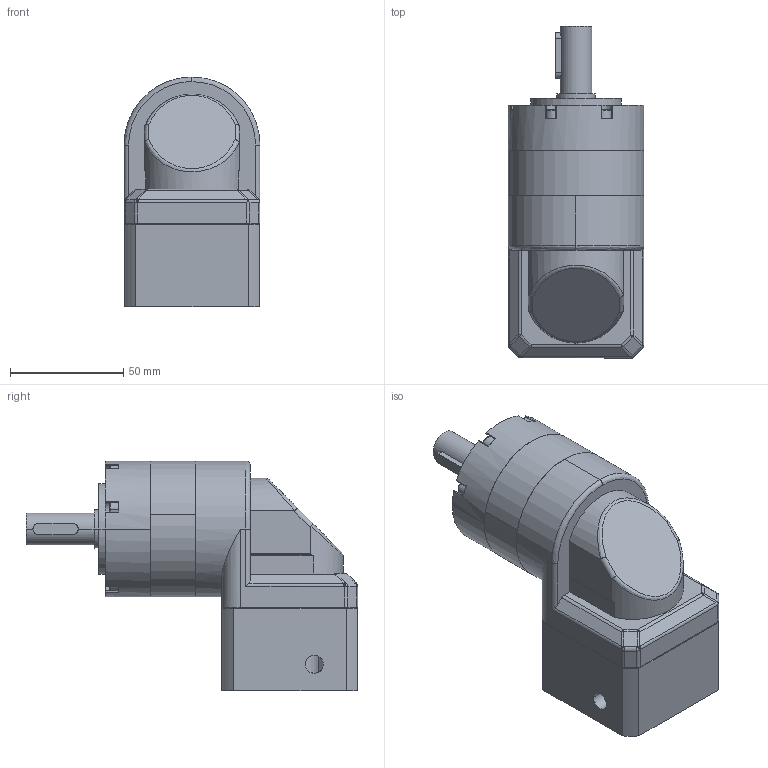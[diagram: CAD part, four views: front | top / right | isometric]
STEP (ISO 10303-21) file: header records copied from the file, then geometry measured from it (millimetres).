
FILE_DESCRIPTION (( 'STEP AP203' ), '1' );
FILE_NAME ('PVEA060-L1-8-38.1-66.7.STEP', '2026-09-22T01:57:19', ( 'Windows User' ), ( 'P R C' ), 'SwSTEP 2.0', 'SolidWorks 2016', '' );
FILE_SCHEMA (( 'CONFIG_CONTROL_DESIGN' ));
Length unit declared in the file: millimetre
Products named in the file (9): 囀鞠褒蹟佪-M5℅16; 邧埴瑩  5x5x20; PVEA60-眊极_揤翉陔眊极; PVEA60 κｳﾝﾈｦ_ﾒｻｼｶﾄﾚｳﾝﾈｦ; PVEA060-L1-8-38.1-66.7; B-PRL60 奻屳唳; PVEA60-薊粣-8; 双列角接触球轴承5203_2; PVEA60-蟀諉啣-38.1-M4-66.7
Assembly tree (8 placements, depth 2):
  PVEA060-L1-8-38.1-66.7
    B-PRL60 奻屳唳
    PVEA60-薊粣-8
    双列角接触球轴承5203_2
    PVEA60-蟀諉啣-38.1-M4-66.7
    囀鞠褒蹟佪-M5℅16
    邧埴瑩  5x5x20
    PVEA60-眊极_揤翉陔眊极
    PVEA60 κｳﾝﾈｦ_ﾒｻｼｶﾄﾚｳﾝﾈｦ
Bounding box: 60 x 146.5 x 101.5 mm (x, y, z)
Volume: 370131.4 mm3; surface area: 97348.4 mm2
Topology: 9 solids, 9 shells, 1229 faces, 3328 edges, 2165 vertices
Faces by surface type: plane 570, bspline 338, cylinder 271, cone 50
Entity records: 51077 total; most frequent: CARTESIAN_POINT 21261, ORIENTED_EDGE 6556, DIRECTION 5112, EDGE_CURVE 3278, VERTEX_POINT 2159, VECTOR 1786, LINE 1786, AXIS2_PLACEMENT_3D 1663
